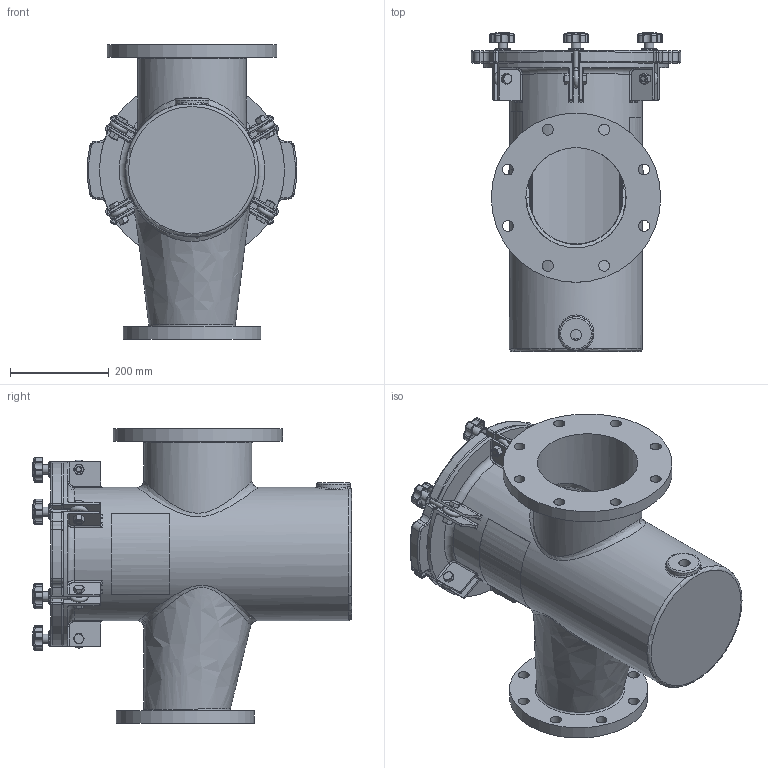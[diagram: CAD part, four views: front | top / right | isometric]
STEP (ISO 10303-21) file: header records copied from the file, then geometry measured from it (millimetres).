
FILE_DESCRIPTION(/* description */ ('STRAINER BODY'),/* implementation_level */ '2;1');
FILE_NAME(/* name */ '\\chntshnas1\IP_PUMPS\NeptuneBenson\Project Execution\WIP\Ready for delivery - Do not Disturb -Updated with metric Flange\Workspace\FG Reducing Strainer\150NBFG86ER1.stp',/* time_stamp */ '2016-10-19T11:56:07+05:00',/* author */ ('20076253'),/* organization */ (''),/* preprocessor_version */ 'ST-DEVELOPER v16.1',/* originating_system */ 'Autodesk Inventor 2016',/* authorisation */ '');
FILE_SCHEMA (('AUTOMOTIVE_DESIGN { 1 0 10303 214 3 1 1 }'));
Length unit declared in the file: inch
Products named in the file (18): NBFG86EBODYR1; 150NBCVR48R1; 150NBGSK48R1; Perforated Basket 10in; Bride (Ring) 10in; Baffle 10in; Handle 10in; Bottom Strainer 10in; NBBSK08T316; Nut- 1_2  UNC; Bolt-1_2 x 1 1_2  UNC; EyeBolt; Washer; Knob M10; Securing Assembly For FG without Brace; Label for 10.625 inch (Right); Label for 10.625 inch (Left); Guardian FG Reducing H&L Strainer (Inch)
Assembly tree (22 placements, depth 3):
  Guardian FG Reducing H&L Strainer (Inch)
    NBFG86EBODYR1
    150NBCVR48R1
    150NBGSK48R1
    NBBSK08T316
      Perforated Basket 10in
      Bride (Ring) 10in
      Baffle 10in
      Handle 10in
      Bottom Strainer 10in
    Securing Assembly For FG without Brace  x6
      Nut- 1_2  UNC
      Bolt-1_2 x 1 1_2  UNC
      EyeBolt
      Washer
      Knob M10
    Label for 10.625 inch (Right)
    Label for 10.625 inch (Left)
Bounding box: 424.18 x 646.2 x 596.9 mm (x, y, z)
Volume: 12323304.5 mm3; surface area: 2922704.2 mm2
Topology: 40 solids, 40 shells, 1269 faces, 2912 edges, 1722 vertices
Faces by surface type: cylinder 463, plane 330, cone 138, torus 124, bspline 112, sphere 102
Full cylindrical faces by diameter (mm): 3.175 x10, 6.35 x2, 8.382 x6, 9.525 x12, 10.592 x6, 12.7 x6, 15.875 x12, 19 x12, 19.05 x6, 22.225 x16, 22.809 x1, 31.75 x6, 68.263 x1, 187.325 x2, 190.5 x1, 193.04 x1, 203.2 x1, 219.075 x1, 254 x2, 266.7 x1, 269.875 x1, 276.225 x1, 279.4 x1, 311.15 x1, 317.5 x1, 342.9 x1
Entity records: 26332 total; most frequent: CARTESIAN_POINT 10390, DIRECTION 3292, ORIENTED_EDGE 2996, EDGE_CURVE 1498, AXIS2_PLACEMENT_3D 1390, VERTEX_POINT 950, EDGE_LOOP 856, CIRCLE 701
